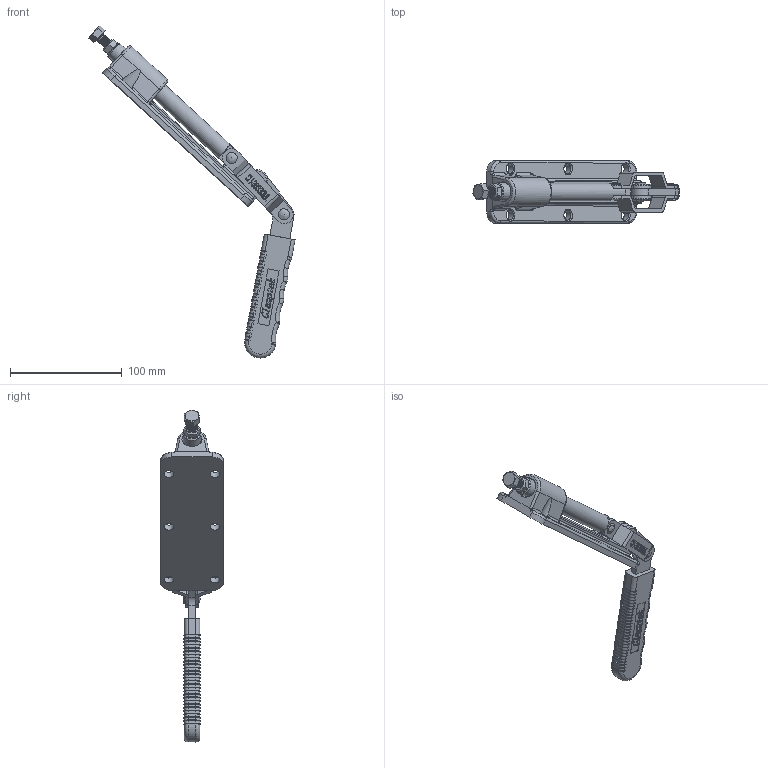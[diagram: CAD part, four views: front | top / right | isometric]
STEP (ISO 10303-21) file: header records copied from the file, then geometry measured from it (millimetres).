
FILE_DESCRIPTION(/* description */ (''),/* implementation_level */ '2;1');
FILE_NAME(/* name */ 'D:\Vault_2016\Projekty\STRONA\Push-pull clamp\CH-36330ML\CH-36330ML_OTWARTY.stp',/* time_stamp */ '2019-01-11T11:52:17+01:00',/* author */ ('user'),/* organization */ (''),/* preprocessor_version */ 'ST-DEVELOPER v17.2',/* originating_system */ 'Autodesk Inventor 2019',/* authorisation */ '');
FILE_SCHEMA (('AUTOMOTIVE_DESIGN { 1 0 10303 214 3 1 1 }'));
Products named in the file (11): CH-36330ML_OTWARTY; 36330MLDC; 36330-MLSHOUBA; 36330MLSHOUB; 36330-MLDINGZHOU; 36330-MLLIANGA; PRT0001; M8_NUT_____; CH-SA-085012_SPINDLE_SUPPLIED__; PRT0002; PRT0003
Assembly tree (11 placements, depth 2):
  CH-36330ML_OTWARTY
    36330MLDC
    36330-MLSHOUBA
    36330MLSHOUB
    36330-MLDINGZHOU
    36330-MLLIANGA
    PRT0001
    M8_NUT_____
    CH-SA-085012_SPINDLE_SUPPLIED__
    PRT0002  x2
    PRT0003
Bounding box: 184.52 x 56 x 297.25 mm (x, y, z)
Volume: 192532.5 mm3; surface area: 74111.1 mm2
Topology: 15 solids, 15 shells, 1815 faces, 4947 edges, 3199 vertices
Faces by surface type: plane 852, bspline 513, cylinder 329, torus 92, cone 21, sphere 8
Full cylindrical faces by diameter (mm): 3.195 x1, 4.031 x1, 6.4 x12, 6.5 x4, 7 x37, 8 x37, 8.7 x6, 9.416 x2, 16 x2
Entity records: 116017 total; most frequent: CARTESIAN_POINT 72884, ORIENTED_EDGE 9836, DIRECTION 7326, EDGE_CURVE 4918, VERTEX_POINT 3186, LINE 3048, VECTOR 3048, AXIS2_PLACEMENT_3D 2139
